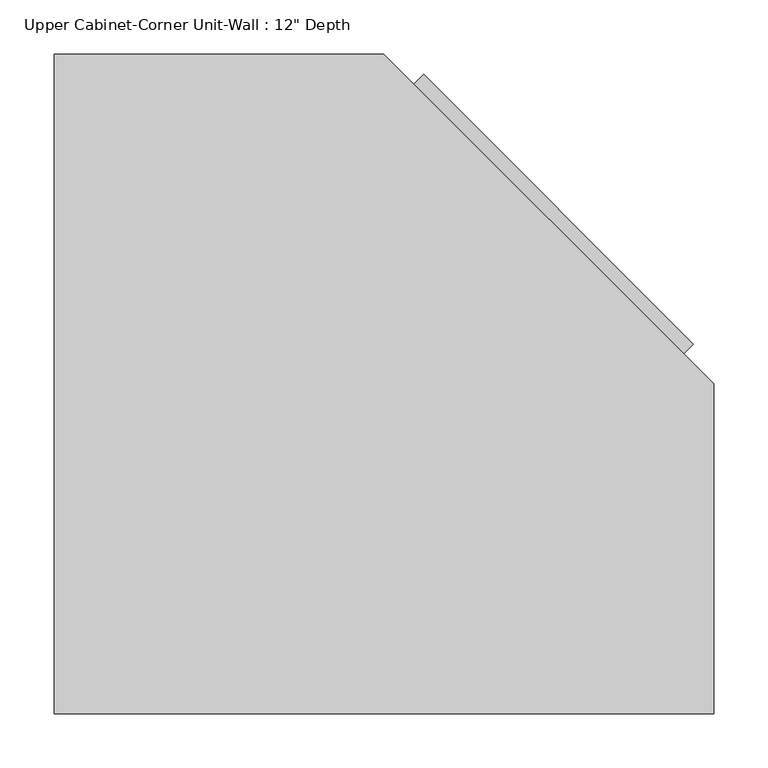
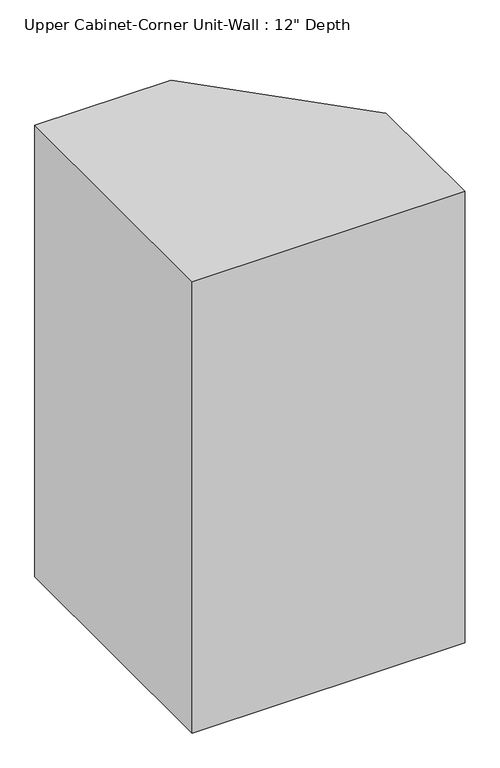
"""IFC4 building model written with IfcOpenShell, lengths in millimetres: furniture geometry."""

from ifc_helpers import new_model, si_unit, frame, origin, place, context, project, spatial, polyline, outline, extrude, faceted_brep, source, transform, mapped, element, save


def furniture_4d8b9883(model_context):
    return source(origin(), model_context, "Body", "SolidModel", [
        extrude(outline(polyline([(295.0625715, 667.0691036), (544.4402664, 417.6914087), (526.4797541, 399.7308964), (277.1020592, 649.1085913), (295.0625715, 667.0691036)])), frame((0.0, 0.0, 1123.95), z_axis=(0.0, 0.0, 1.0), x_axis=(1.0, 0.0, 0.0)), (0.0, 0.0, 1.0), 952.5),
        extrude(outline(polyline([(-27.3788372, 666.75), (250.4803944, 666.75), (544.1211628, 373.1092316), (544.1211628, 95.25), (-27.3788372, 95.25), (-27.3788372, 666.75)])), frame((0.0, 0.0, 1066.8), z_axis=(0.0, 0.0, 1.0), x_axis=(1.0, 0.0, 0.0)), (0.0, 0.0, 1.0), 25.4),
        faceted_brep([(-46.4288372, 685.8, 1066.8), (258.3711628, 685.8, 1066.8), (563.1711628, 381.0, 1066.8), (563.1711628, 76.2, 1066.8), (-46.4288372, 76.2, 1066.8), (250.4803944, 666.75, 1066.8), (-27.3788372, 666.75, 1066.8), (-27.3788372, 95.25, 1066.8), (544.1211628, 95.25, 1066.8), (544.1211628, 373.1092316, 1066.8), (-46.4288372, 685.8, 2133.6), (-46.4288372, 76.2, 2133.6), (563.1711628, 76.2, 2133.6), (563.1711628, 381.0, 2133.6), (258.3711628, 685.8, 2133.6), (250.4803944, 666.75, 2108.2), (-27.3788372, 666.75, 2108.2), (-27.3788372, 95.25, 2108.2), (544.1211628, 95.25, 2108.2), (544.1211628, 373.1092316, 2108.2), (535.4600102, 408.7111525, 2076.45), (286.0823153, 658.0888475, 2076.45), (286.0823153, 658.0888475, 1123.95), (535.4600102, 408.7111525, 1123.95), (272.6119312, 644.6184633, 2076.45), (521.9896261, 395.2407684, 2076.45), (521.9896261, 395.2407684, 1123.95), (272.6119312, 644.6184633, 1123.95)], [[[0, 1, 2, 3, 4], [5, 6, 7, 8, 9]], [[10, 11, 12, 13, 14]], [[1, 0, 10, 14]], [[6, 5, 15, 16]], [[7, 6, 16, 17]], [[8, 7, 17, 18]], [[9, 8, 18, 19]], [[3, 2, 13, 12]], [[4, 3, 12, 11]], [[0, 4, 11, 10]], [[16, 15, 19, 18, 17]], [[2, 1, 14, 13], [20, 21, 22, 23]], [[5, 9, 19, 15], [24, 25, 26, 27]], [[20, 25, 24, 21]], [[22, 27, 26, 23]], [[21, 24, 27, 22]], [[25, 20, 23, 26]]]),
    ])


if __name__ == "__main__":
    model = new_model("IFC4")
    model_context = context("Model", 3, world=origin())
    ifc_project = project(units=[si_unit("LENGTHUNIT", "METRE", prefix="MILLI")], contexts=[model_context])
    site = spatial("IfcSite", under=ifc_project)
    building = spatial("IfcBuilding", under=site)
    placement = place(None, origin())
    furniture_shape = furniture_4d8b9883(model_context)
    element("IfcFurniture", 1, ObjectType="Upper Cabinet-Corner Unit-Wall : 12\" Depth", at=placement, inside=building, context=model_context, shape_type="MappedRepresentation", body=[
        mapped(furniture_shape, transform((0.0, 0.0, 0.0), x_axis=(1.0, 0.0, 0.0), y_axis=(0.0, 1.0, 0.0), z_axis=(0.0, 0.0, 1.0))),
    ])
    save(model, "model.ifc")
